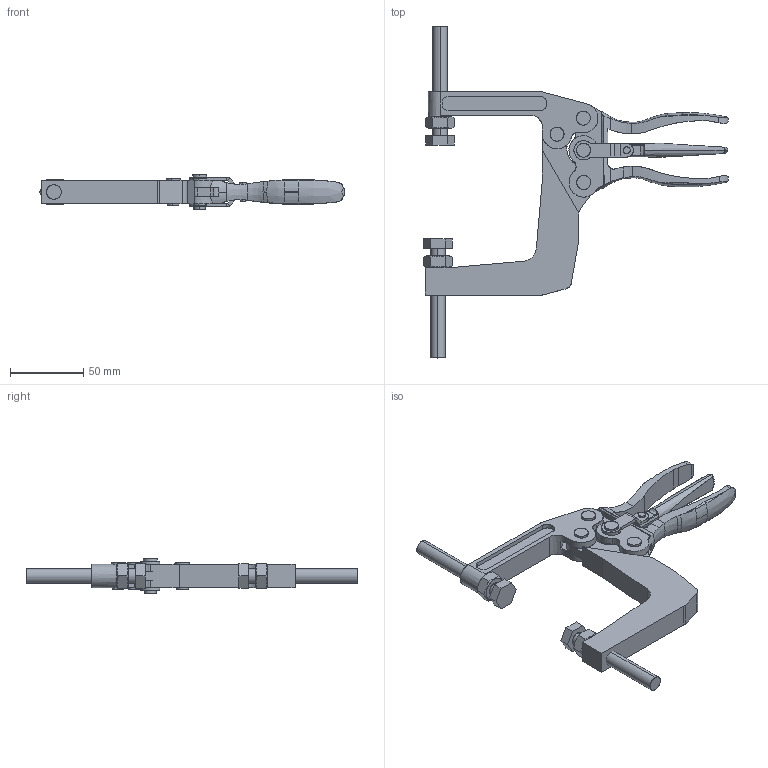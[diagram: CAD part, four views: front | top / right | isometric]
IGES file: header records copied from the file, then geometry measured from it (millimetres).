
Start section: SolidWorks IGES file using analytic representation for surfaces
Global section: file name: C:\Projetos\Grampos\Alicates\KFA-100\KFA-100.IGS; native system: SolidWorks 2013; preprocessor: SolidWorks 2013; author: Ricardo; date: 140904.152219; units: millimetre
Bounding box: 208.56 x 227 x 23.5 mm (x, y, z)
Surface area: 58163 mm2 (no closed solid volume)
Topology: 0 solids, 0 shells, 401 faces, 6106 edges, 6098 vertices
Faces by surface type: revolution 223, bspline 178
